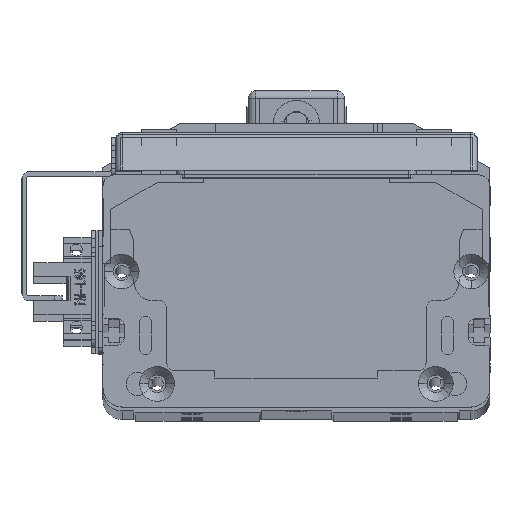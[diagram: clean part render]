
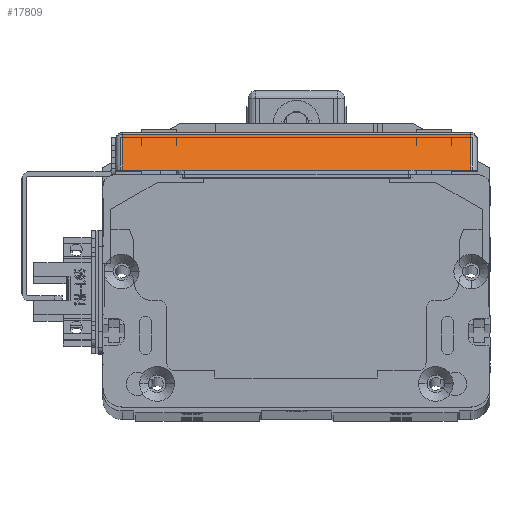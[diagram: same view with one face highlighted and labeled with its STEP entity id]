
A CAD part, top view. The second image highlights one B-rep face of the part: STEP entity #17809.
In plain terms, the highlighted planar face has unit normal (0, 0.707, 0.707) as drawn and (-0.707, 0, -0.707) by its records, which use the part's own axes.
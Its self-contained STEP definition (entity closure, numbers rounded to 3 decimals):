
#88 = DIRECTION ( 'NONE',  ( 0., -1., 0. ) ) ;
#1487 = FACE_OUTER_BOUND ( 'NONE', #29920, .T. ) ;
#2367 = VERTEX_POINT ( 'NONE', #15736 ) ;
#3459 = EDGE_CURVE ( 'NONE', #50119, #33273, #70196, .T. ) ;
#3624 = VERTEX_POINT ( 'NONE', #34318 ) ;
#13422 = CARTESIAN_POINT ( 'NONE',  ( -68., 93.4, 5.6 ) ) ;
#15736 = CARTESIAN_POINT ( 'NONE',  ( -66.5, 1.7, 4.1 ) ) ;
#17071 = DIRECTION ( 'NONE',  ( 0.707, 0., -0.707 ) ) ;
#17809 = ADVANCED_FACE ( 'NONE', ( #1487 ), #18118, .T. ) ;
#18118 = PLANE ( 'NONE',  #38847 ) ;
#18984 = CARTESIAN_POINT ( 'NONE',  ( -57.298, 91.7, -5.102 ) ) ;
#20625 = DIRECTION ( 'NONE',  ( 0., 1., 0. ) ) ;
#25177 = CARTESIAN_POINT ( 'NONE',  ( -66.5, 91.7, 4.1 ) ) ;
#29372 = DIRECTION ( 'NONE',  ( -0.707, 0., 0.707 ) ) ;
#29920 = EDGE_LOOP ( 'NONE', ( #63291, #43991, #31555, #62464 ) ) ;
#31153 = CARTESIAN_POINT ( 'NONE',  ( -57.298, 93.4, -5.102 ) ) ;
#31555 = ORIENTED_EDGE ( 'NONE', *, *, #3459, .T. ) ;
#33273 = VERTEX_POINT ( 'NONE', #18984 ) ;
#34318 = CARTESIAN_POINT ( 'NONE',  ( -57.298, 1.7, -5.102 ) ) ;
#37113 = VECTOR ( 'NONE', #17071, 1000. ) ;
#37458 = CARTESIAN_POINT ( 'NONE',  ( -66.5, 93.4, 4.1 ) ) ;
#37820 = EDGE_CURVE ( 'NONE', #33273, #3624, #53984, .T. ) ;
#38847 = AXIS2_PLACEMENT_3D ( 'NONE', #13422, #67254, #45894 ) ;
#39493 = VECTOR ( 'NONE', #88, 1000. ) ;
#40560 = VECTOR ( 'NONE', #20625, 1000. ) ;
#40744 = CARTESIAN_POINT ( 'NONE',  ( -68., 1.7, 5.6 ) ) ;
#43521 = EDGE_CURVE ( 'NONE', #2367, #50119, #55001, .T. ) ;
#43991 = ORIENTED_EDGE ( 'NONE', *, *, #43521, .T. ) ;
#45500 = EDGE_CURVE ( 'NONE', #3624, #2367, #62850, .T. ) ;
#45894 = DIRECTION ( 'NONE',  ( -0.707, 0., 0.707 ) ) ;
#50119 = VERTEX_POINT ( 'NONE', #25177 ) ;
#53984 = LINE ( 'NONE', #31153, #39493 ) ;
#55001 = LINE ( 'NONE', #37458, #40560 ) ;
#62464 = ORIENTED_EDGE ( 'NONE', *, *, #37820, .T. ) ;
#62850 = LINE ( 'NONE', #40744, #64486 ) ;
#63291 = ORIENTED_EDGE ( 'NONE', *, *, #45500, .T. ) ;
#64486 = VECTOR ( 'NONE', #29372, 1000. ) ;
#67254 = DIRECTION ( 'NONE',  ( -0.707, 0., -0.707 ) ) ;
#68550 = CARTESIAN_POINT ( 'NONE',  ( -68., 91.7, 5.6 ) ) ;
#70196 = LINE ( 'NONE', #68550, #37113 ) ;
